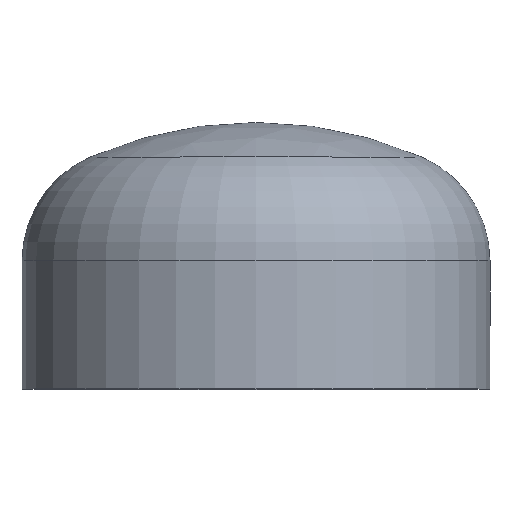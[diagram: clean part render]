
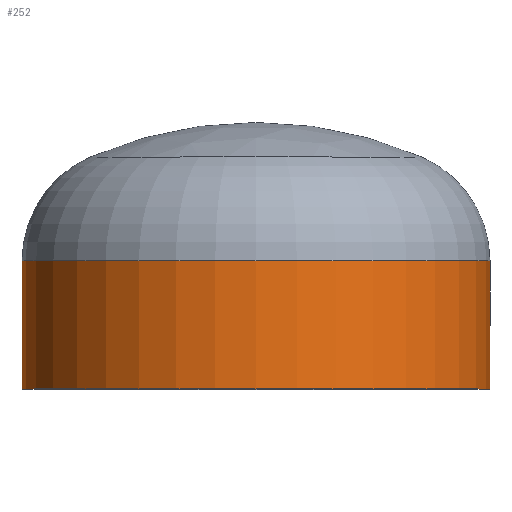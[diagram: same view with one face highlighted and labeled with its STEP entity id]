
A CAD part, top view. The second image highlights one B-rep face of the part: STEP entity #252.
In plain terms, the highlighted cylindrical face has radius 109.55 mm (diameter 219.1 mm), a partial arc.
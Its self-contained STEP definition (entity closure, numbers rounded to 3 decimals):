
#12 = EDGE_LOOP ( 'NONE', ( #124, #109, #77, #123 ) ) ;
#20 = VERTEX_POINT ( 'NONE', #295 ) ;
#39 = DIRECTION ( 'NONE',  ( 1., 0., 0. ) ) ;
#68 = AXIS2_PLACEMENT_3D ( 'NONE', #179, #177, #39 ) ;
#69 = AXIS2_PLACEMENT_3D ( 'NONE', #296, #350, #294 ) ;
#77 = ORIENTED_EDGE ( 'NONE', *, *, #320, .F. ) ;
#92 = VERTEX_POINT ( 'NONE', #366 ) ;
#96 = AXIS2_PLACEMENT_3D ( 'NONE', #237, #241, #219 ) ;
#109 = ORIENTED_EDGE ( 'NONE', *, *, #136, .T. ) ;
#112 = VERTEX_POINT ( 'NONE', #246 ) ;
#123 = ORIENTED_EDGE ( 'NONE', *, *, #129, .F. ) ;
#124 = ORIENTED_EDGE ( 'NONE', *, *, #150, .T. ) ;
#129 = EDGE_CURVE ( 'NONE', #112, #20, #409, .T. ) ;
#134 = VERTEX_POINT ( 'NONE', #340 ) ;
#136 = EDGE_CURVE ( 'NONE', #92, #134, #160, .T. ) ;
#145 = CIRCLE ( 'NONE', #96, 109.55 ) ;
#150 = EDGE_CURVE ( 'NONE', #112, #92, #145, .T. ) ;
#160 = LINE ( 'NONE', #250, #405 ) ;
#167 = VECTOR ( 'NONE', #249, 1000. ) ;
#177 = DIRECTION ( 'NONE',  ( 0., -1., 0. ) ) ;
#179 = CARTESIAN_POINT ( 'NONE',  ( 0., 0., 0. ) ) ;
#193 = CIRCLE ( 'NONE', #68, 109.55 ) ;
#219 = DIRECTION ( 'NONE',  ( 1., 0., 0. ) ) ;
#237 = CARTESIAN_POINT ( 'NONE',  ( 0., 60., 0. ) ) ;
#241 = DIRECTION ( 'NONE',  ( 0., -1., 0. ) ) ;
#246 = CARTESIAN_POINT ( 'NONE',  ( 109.55, 60., 0. ) ) ;
#249 = DIRECTION ( 'NONE',  ( 0., -1., 0. ) ) ;
#250 = CARTESIAN_POINT ( 'NONE',  ( -109.55, 0., 0. ) ) ;
#252 = ADVANCED_FACE ( 'NONE', ( #267 ), #261, .T. ) ;
#261 = CYLINDRICAL_SURFACE ( 'NONE', #69, 109.55 ) ;
#267 = FACE_OUTER_BOUND ( 'NONE', #12, .T. ) ;
#294 = DIRECTION ( 'NONE',  ( 1., 0., 0. ) ) ;
#295 = CARTESIAN_POINT ( 'NONE',  ( 109.55, 0., 0. ) ) ;
#296 = CARTESIAN_POINT ( 'NONE',  ( 0., 0., 0. ) ) ;
#320 = EDGE_CURVE ( 'NONE', #20, #134, #193, .T. ) ;
#326 = DIRECTION ( 'NONE',  ( 0., -1., 0. ) ) ;
#340 = CARTESIAN_POINT ( 'NONE',  ( -109.55, 0., 0. ) ) ;
#343 = CARTESIAN_POINT ( 'NONE',  ( 109.55, 0., 0. ) ) ;
#350 = DIRECTION ( 'NONE',  ( 0., -1., 0. ) ) ;
#366 = CARTESIAN_POINT ( 'NONE',  ( -109.55, 60., 0. ) ) ;
#405 = VECTOR ( 'NONE', #326, 1000. ) ;
#409 = LINE ( 'NONE', #343, #167 ) ;
